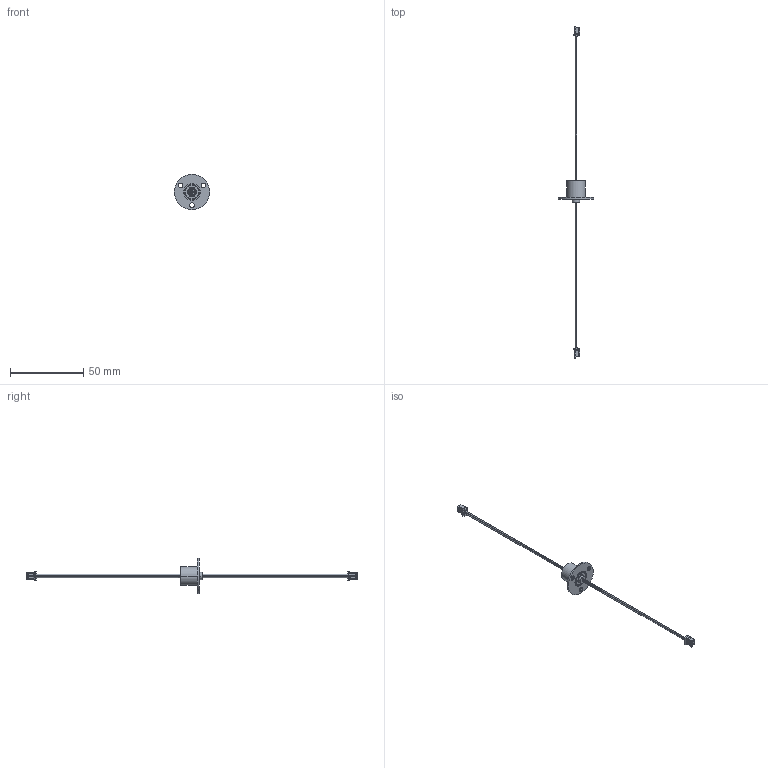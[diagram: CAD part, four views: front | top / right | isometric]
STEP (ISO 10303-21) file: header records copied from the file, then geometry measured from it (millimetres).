
FILE_DESCRIPTION((''),'2;1');
FILE_NAME('12MM000_ASM','2024-06-21T16:31:34',('qinghui.yi'),(''),'CREO PARAMETRIC BY PTC INC, 2019164','CREO PARAMETRIC BY PTC INC, 2019164','');
FILE_SCHEMA(('CONFIG_CONTROL_DESIGN','SHAPE_APPEARANCE_LAYERS_GROUPS'));
Length unit declared in the file: millimetre
Products named in the file (3): PRT0002; PH; 12MM000_ASM
Assembly tree (3 placements, depth 2):
  12MM000_ASM
    PRT0002
    PH  x2
Bounding box: 24 x 226.43 x 24 mm (x, y, z)
Volume: 2154.1 mm3; surface area: 3206 mm2
Topology: 3 solids, 3 shells, 291 faces, 841 edges, 579 vertices
Faces by surface type: plane 257, cylinder 30, bspline 4
Entity records: 6655 total; most frequent: CARTESIAN_POINT 1746, ORIENTED_EDGE 928, DIRECTION 864, EDGE_CURVE 464, VECTOR 398, LINE 398, COLOUR_RGB 314, VERTEX_POINT 302
